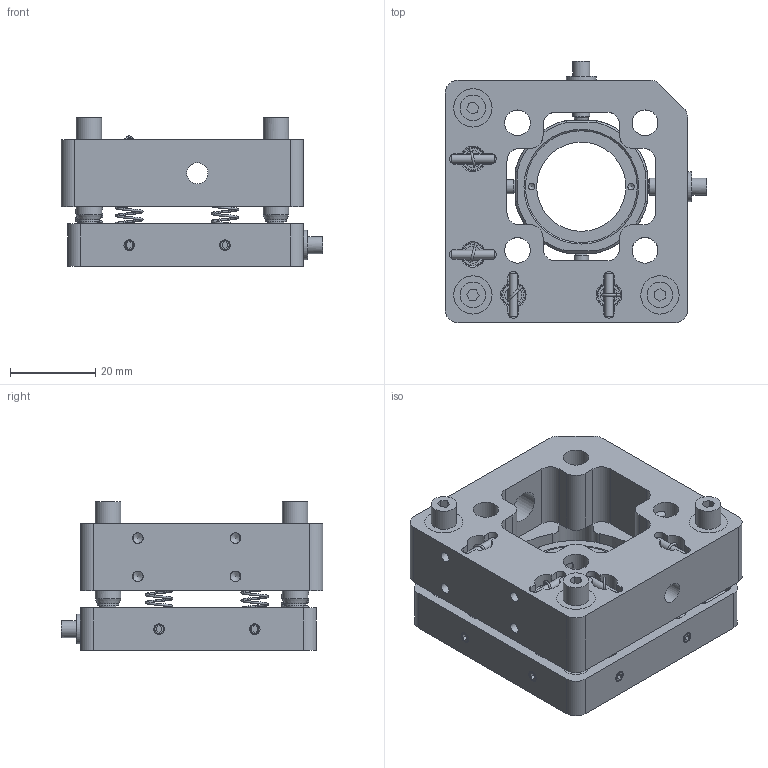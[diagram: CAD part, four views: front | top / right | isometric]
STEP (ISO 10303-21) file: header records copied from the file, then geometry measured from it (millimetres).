
FILE_DESCRIPTION (( 'STEP AP203' ), '1' );
FILE_NAME ('CM-26L3TH_defeature.STEP', '2022-06-15T02:34:03', ( '' ), ( '' ), 'SwSTEP 2.0', 'SolidWorks 2019', '' );
FILE_SCHEMA (( 'CONFIG_CONTROL_DESIGN' ));
Length unit declared in the file: millimetre
Products named in the file (1): CM-26L3TH_defeature
Bounding box: 61.5 x 61.5 x 34.98 mm (x, y, z)
Surface area: 27567.8 mm2 (no closed solid volume)
Topology: 0 solids, 30 shells, 505 faces, 1197 edges, 786 vertices
Faces by surface type: plane 271, cylinder 164, cone 44, bspline 12, sphere 10, torus 4
Full cylindrical faces by diameter (mm): 0.5 x4, 1 x6, 1.5 x8, 2 x4, 2.05 x4, 2.5 x20, 2.6 x2, 3.4 x2, 4 x8, 5 x10, 6 x17, 6.05 x4, 7 x2, 7.5 x2, 21 x2, 26 x1, 26.3 x2
Entity records: 19272 total; most frequent: CARTESIAN_POINT 8465, DIRECTION 2243, ORIENTED_EDGE 1936, EDGE_CURVE 974, AXIS2_PLACEMENT_3D 871, EDGE_LOOP 753, VERTEX_POINT 713, FACE_OUTER_BOUND 606
